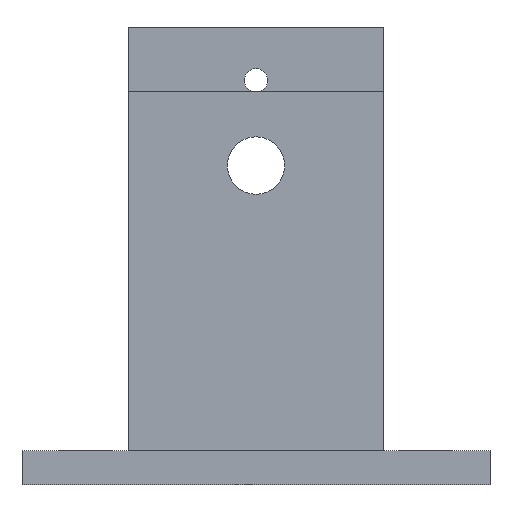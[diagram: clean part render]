
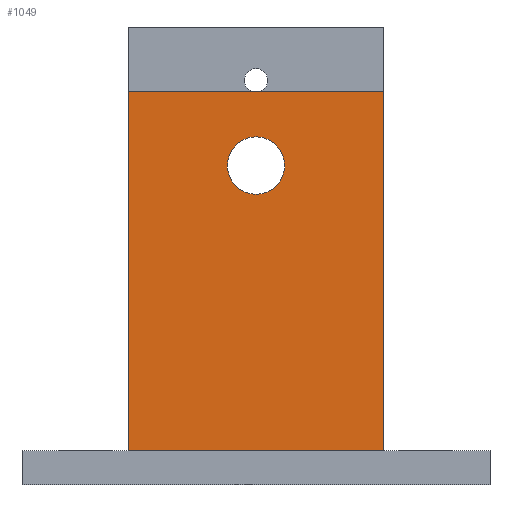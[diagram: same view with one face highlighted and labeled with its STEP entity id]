
A CAD part, front view. The second image highlights one B-rep face of the part: STEP entity #1049.
In plain terms, the highlighted planar face has unit normal (0, -1, 0).
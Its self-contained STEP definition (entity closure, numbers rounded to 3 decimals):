
#126 = PLANE('',#127);
#127 = AXIS2_PLACEMENT_3D('',#128,#129,#130);
#128 = CARTESIAN_POINT('',(-60.,-32.,3.2));
#129 = DIRECTION('',(0.,0.,1.));
#130 = DIRECTION('',(1.,0.,0.));
#265 = EDGE_CURVE('',#266,#268,#270,.T.);
#266 = VERTEX_POINT('',#267);
#267 = CARTESIAN_POINT('',(-26.,-30.,3.2));
#268 = VERTEX_POINT('',#269);
#269 = CARTESIAN_POINT('',(-50.,-30.,3.2));
#270 = SURFACE_CURVE('',#271,(#275,#281),.PCURVE_S1.);
#271 = LINE('',#272,#273);
#272 = CARTESIAN_POINT('',(-55.,-30.,3.2));
#273 = VECTOR('',#274,1.);
#274 = DIRECTION('',(-1.,0.,0.));
#275 = PCURVE('',#126,#276);
#276 = DEFINITIONAL_REPRESENTATION('',(#277),#280);
#277 = B_SPLINE_CURVE_WITH_KNOTS('',1,(#278,#279),.UNSPECIFIED.,.F.,.F.,
  (2,2),(-29.,-5.),.PIECEWISE_BEZIER_KNOTS.);
#278 = CARTESIAN_POINT('',(34.,2.));
#279 = CARTESIAN_POINT('',(10.,2.));
#280 = ( GEOMETRIC_REPRESENTATION_CONTEXT(2) 
PARAMETRIC_REPRESENTATION_CONTEXT() REPRESENTATION_CONTEXT('2D SPACE',''
  ) );
#281 = PCURVE('',#282,#287);
#282 = PLANE('',#283);
#283 = AXIS2_PLACEMENT_3D('',#284,#285,#286);
#284 = CARTESIAN_POINT('',(-50.,-30.,0.));
#285 = DIRECTION('',(0.,1.,0.));
#286 = DIRECTION('',(0.,0.,1.));
#287 = DEFINITIONAL_REPRESENTATION('',(#288),#291);
#288 = B_SPLINE_CURVE_WITH_KNOTS('',1,(#289,#290),.UNSPECIFIED.,.F.,.F.,
  (2,2),(-29.,-5.),.PIECEWISE_BEZIER_KNOTS.);
#289 = CARTESIAN_POINT('',(3.2,24.));
#290 = CARTESIAN_POINT('',(3.2,0.));
#291 = ( GEOMETRIC_REPRESENTATION_CONTEXT(2) 
PARAMETRIC_REPRESENTATION_CONTEXT() REPRESENTATION_CONTEXT('2D SPACE',''
  ) );
#308 = PLANE('',#309);
#309 = AXIS2_PLACEMENT_3D('',#310,#311,#312);
#310 = CARTESIAN_POINT('',(-50.,-30.,0.));
#311 = DIRECTION('',(1.,0.,0.));
#312 = DIRECTION('',(0.,0.,1.));
#358 = PLANE('',#359);
#359 = AXIS2_PLACEMENT_3D('',#360,#361,#362);
#360 = CARTESIAN_POINT('',(-26.,-30.,0.));
#361 = DIRECTION('',(1.,0.,0.));
#362 = DIRECTION('',(0.,0.,1.));
#1049 = ADVANCED_FACE('',(#1050,#1125),#282,.F.);
#1050 = FACE_BOUND('',#1051,.F.);
#1051 = EDGE_LOOP('',(#1052,#1075,#1076,#1099));
#1052 = ORIENTED_EDGE('',*,*,#1053,.F.);
#1053 = EDGE_CURVE('',#266,#1054,#1056,.T.);
#1054 = VERTEX_POINT('',#1055);
#1055 = CARTESIAN_POINT('',(-26.,-30.,37.));
#1056 = SURFACE_CURVE('',#1057,(#1061,#1068),.PCURVE_S1.);
#1057 = LINE('',#1058,#1059);
#1058 = CARTESIAN_POINT('',(-26.,-30.,0.));
#1059 = VECTOR('',#1060,1.);
#1060 = DIRECTION('',(0.,0.,1.));
#1061 = PCURVE('',#282,#1062);
#1062 = DEFINITIONAL_REPRESENTATION('',(#1063),#1067);
#1063 = LINE('',#1064,#1065);
#1064 = CARTESIAN_POINT('',(0.,24.));
#1065 = VECTOR('',#1066,1.);
#1066 = DIRECTION('',(1.,0.));
#1067 = ( GEOMETRIC_REPRESENTATION_CONTEXT(2) 
PARAMETRIC_REPRESENTATION_CONTEXT() REPRESENTATION_CONTEXT('2D SPACE',''
  ) );
#1068 = PCURVE('',#358,#1069);
#1069 = DEFINITIONAL_REPRESENTATION('',(#1070),#1074);
#1070 = LINE('',#1071,#1072);
#1071 = CARTESIAN_POINT('',(0.,0.));
#1072 = VECTOR('',#1073,1.);
#1073 = DIRECTION('',(1.,0.));
#1074 = ( GEOMETRIC_REPRESENTATION_CONTEXT(2) 
PARAMETRIC_REPRESENTATION_CONTEXT() REPRESENTATION_CONTEXT('2D SPACE',''
  ) );
#1075 = ORIENTED_EDGE('',*,*,#265,.T.);
#1076 = ORIENTED_EDGE('',*,*,#1077,.T.);
#1077 = EDGE_CURVE('',#268,#1078,#1080,.T.);
#1078 = VERTEX_POINT('',#1079);
#1079 = CARTESIAN_POINT('',(-50.,-30.,37.));
#1080 = SURFACE_CURVE('',#1081,(#1085,#1092),.PCURVE_S1.);
#1081 = LINE('',#1082,#1083);
#1082 = CARTESIAN_POINT('',(-50.,-30.,0.));
#1083 = VECTOR('',#1084,1.);
#1084 = DIRECTION('',(0.,0.,1.));
#1085 = PCURVE('',#282,#1086);
#1086 = DEFINITIONAL_REPRESENTATION('',(#1087),#1091);
#1087 = LINE('',#1088,#1089);
#1088 = CARTESIAN_POINT('',(0.,0.));
#1089 = VECTOR('',#1090,1.);
#1090 = DIRECTION('',(1.,0.));
#1091 = ( GEOMETRIC_REPRESENTATION_CONTEXT(2) 
PARAMETRIC_REPRESENTATION_CONTEXT() REPRESENTATION_CONTEXT('2D SPACE',''
  ) );
#1092 = PCURVE('',#308,#1093);
#1093 = DEFINITIONAL_REPRESENTATION('',(#1094),#1098);
#1094 = LINE('',#1095,#1096);
#1095 = CARTESIAN_POINT('',(0.,0.));
#1096 = VECTOR('',#1097,1.);
#1097 = DIRECTION('',(1.,0.));
#1098 = ( GEOMETRIC_REPRESENTATION_CONTEXT(2) 
PARAMETRIC_REPRESENTATION_CONTEXT() REPRESENTATION_CONTEXT('2D SPACE',''
  ) );
#1099 = ORIENTED_EDGE('',*,*,#1100,.T.);
#1100 = EDGE_CURVE('',#1078,#1054,#1101,.T.);
#1101 = SURFACE_CURVE('',#1102,(#1106,#1113),.PCURVE_S1.);
#1102 = LINE('',#1103,#1104);
#1103 = CARTESIAN_POINT('',(-50.,-30.,37.));
#1104 = VECTOR('',#1105,1.);
#1105 = DIRECTION('',(1.,0.,0.));
#1106 = PCURVE('',#282,#1107);
#1107 = DEFINITIONAL_REPRESENTATION('',(#1108),#1112);
#1108 = LINE('',#1109,#1110);
#1109 = CARTESIAN_POINT('',(37.,0.));
#1110 = VECTOR('',#1111,1.);
#1111 = DIRECTION('',(0.,1.));
#1112 = ( GEOMETRIC_REPRESENTATION_CONTEXT(2) 
PARAMETRIC_REPRESENTATION_CONTEXT() REPRESENTATION_CONTEXT('2D SPACE',''
  ) );
#1113 = PCURVE('',#1114,#1119);
#1114 = PLANE('',#1115);
#1115 = AXIS2_PLACEMENT_3D('',#1116,#1117,#1118);
#1116 = CARTESIAN_POINT('',(-50.,-30.,37.));
#1117 = DIRECTION('',(0.,0.,1.));
#1118 = DIRECTION('',(1.,0.,0.));
#1119 = DEFINITIONAL_REPRESENTATION('',(#1120),#1124);
#1120 = LINE('',#1121,#1122);
#1121 = CARTESIAN_POINT('',(0.,0.));
#1122 = VECTOR('',#1123,1.);
#1123 = DIRECTION('',(1.,0.));
#1124 = ( GEOMETRIC_REPRESENTATION_CONTEXT(2) 
PARAMETRIC_REPRESENTATION_CONTEXT() REPRESENTATION_CONTEXT('2D SPACE',''
  ) );
#1125 = FACE_BOUND('',#1126,.F.);
#1126 = EDGE_LOOP('',(#1127));
#1127 = ORIENTED_EDGE('',*,*,#1128,.F.);
#1128 = EDGE_CURVE('',#1129,#1129,#1131,.T.);
#1129 = VERTEX_POINT('',#1130);
#1130 = CARTESIAN_POINT('',(-38.,-30.,32.7));
#1131 = SURFACE_CURVE('',#1132,(#1137,#1144),.PCURVE_S1.);
#1132 = CIRCLE('',#1133,2.7);
#1133 = AXIS2_PLACEMENT_3D('',#1134,#1135,#1136);
#1134 = CARTESIAN_POINT('',(-38.,-30.,30.));
#1135 = DIRECTION('',(0.,1.,0.));
#1136 = DIRECTION('',(0.,-0.,1.));
#1137 = PCURVE('',#282,#1138);
#1138 = DEFINITIONAL_REPRESENTATION('',(#1139),#1143);
#1139 = CIRCLE('',#1140,2.7);
#1140 = AXIS2_PLACEMENT_2D('',#1141,#1142);
#1141 = CARTESIAN_POINT('',(30.,12.));
#1142 = DIRECTION('',(1.,0.));
#1143 = ( GEOMETRIC_REPRESENTATION_CONTEXT(2) 
PARAMETRIC_REPRESENTATION_CONTEXT() REPRESENTATION_CONTEXT('2D SPACE',''
  ) );
#1144 = PCURVE('',#1145,#1150);
#1145 = CYLINDRICAL_SURFACE('',#1146,2.7);
#1146 = AXIS2_PLACEMENT_3D('',#1147,#1148,#1149);
#1147 = CARTESIAN_POINT('',(-38.,-31.,30.));
#1148 = DIRECTION('',(0.,1.,0.));
#1149 = DIRECTION('',(0.,-0.,1.));
#1150 = DEFINITIONAL_REPRESENTATION('',(#1151),#1155);
#1151 = LINE('',#1152,#1153);
#1152 = CARTESIAN_POINT('',(0.,1.));
#1153 = VECTOR('',#1154,1.);
#1154 = DIRECTION('',(1.,0.));
#1155 = ( GEOMETRIC_REPRESENTATION_CONTEXT(2) 
PARAMETRIC_REPRESENTATION_CONTEXT() REPRESENTATION_CONTEXT('2D SPACE',''
  ) );
